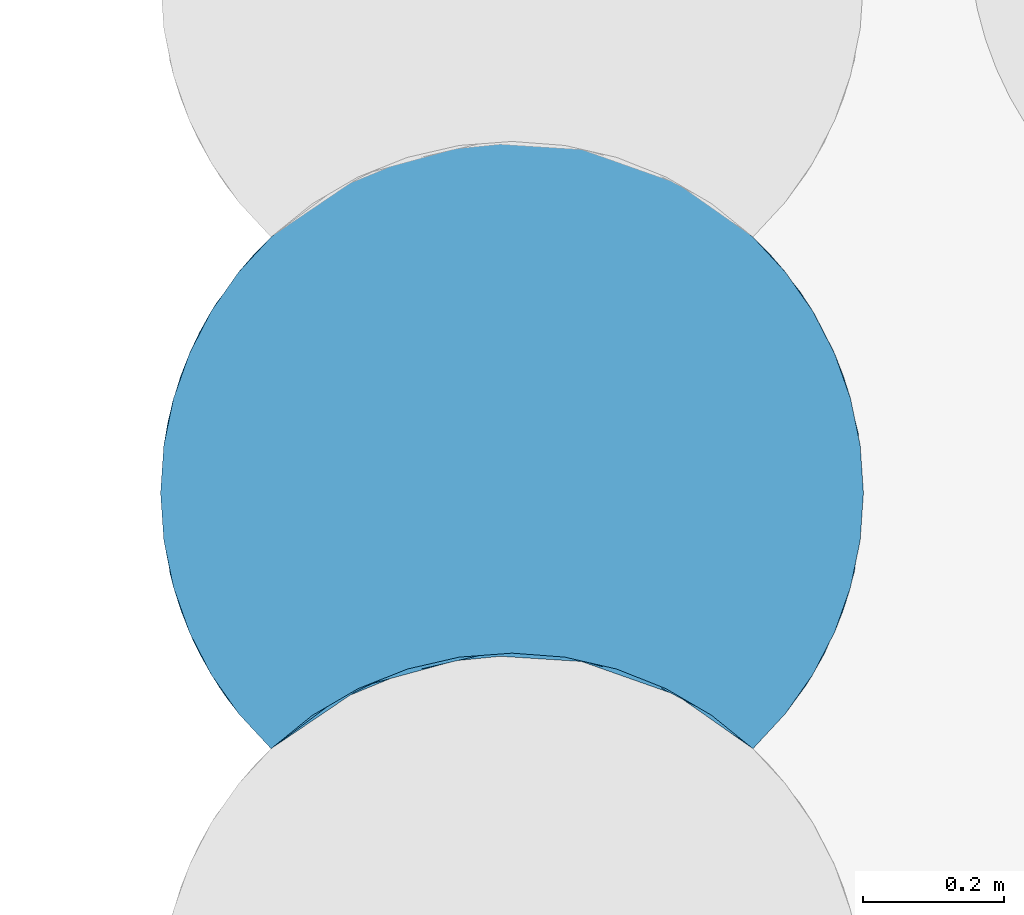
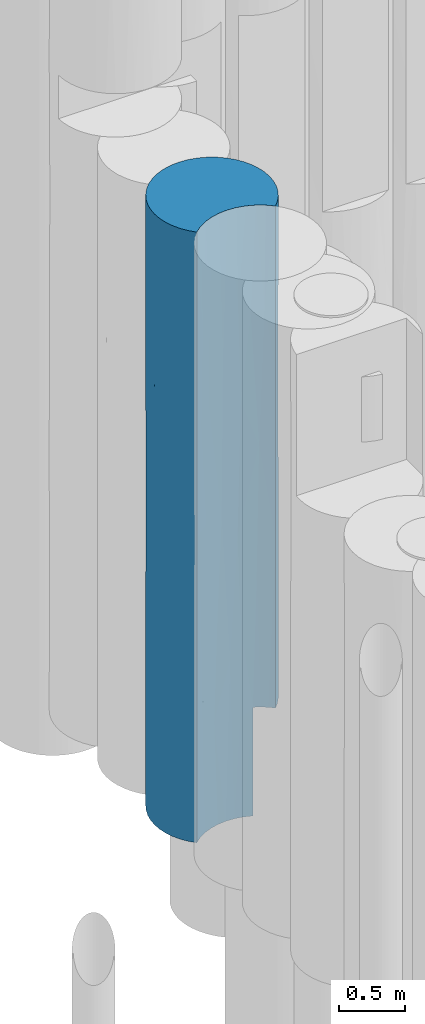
# One storey, part 57 of 104: 1 pile.
"""IFC2X3 building model written with IfcOpenShell, lengths in millimetres."""

from ifc_helpers import new_model, entity, si_unit, converted_unit, derived_unit, direction, frame, origin, place, context, subcontext, project, spatial, faceted_brep, source, transform, mapped, material, element, save


model = new_model("IFC2X3")

# Units and contexts
model_context = context("Model", 3, precision=0.01, world=origin(), true_north=direction((6.12303176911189e-17, 1.0)))
body_context = subcontext(model_context, "Body", "Model", "MODEL_VIEW")
ifc_project = project(units=[si_unit("LENGTHUNIT", "METRE", prefix="MILLI"), si_unit("AREAUNIT", "SQUARE_METRE", prefix="MILLI"), si_unit("VOLUMEUNIT", "CUBIC_METRE"), converted_unit("PLANEANGLEUNIT", "DEGREE", entity("IfcRatioMeasure", 0.0174532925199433), si_unit("PLANEANGLEUNIT", "RADIAN"), dimensions=[0, 0, 0, 0, 0, 0, 0]), si_unit("MASSUNIT", "GRAM", prefix="KILO"), derived_unit("MASSDENSITYUNIT", [(si_unit("MASSUNIT", "GRAM", prefix="KILO"), 1), (si_unit("LENGTHUNIT", "METRE"), -3)]), derived_unit("MOMENTOFINERTIAUNIT", [(si_unit("LENGTHUNIT", "METRE"), 4)]), si_unit("TIMEUNIT", "SECOND"), si_unit("FREQUENCYUNIT", "HERTZ"), si_unit("THERMODYNAMICTEMPERATUREUNIT", "DEGREE_CELSIUS"), derived_unit("THERMALTRANSMITTANCEUNIT", [(si_unit("MASSUNIT", "GRAM", prefix="KILO"), 1), (si_unit("THERMODYNAMICTEMPERATUREUNIT", "KELVIN"), -1), (si_unit("TIMEUNIT", "SECOND"), -3)]), derived_unit("VOLUMETRICFLOWRATEUNIT", [(si_unit("LENGTHUNIT", "METRE"), 3), (si_unit("TIMEUNIT", "SECOND"), -1)]), si_unit("ELECTRICCURRENTUNIT", "AMPERE"), si_unit("ELECTRICVOLTAGEUNIT", "VOLT"), si_unit("POWERUNIT", "WATT"), si_unit("FORCEUNIT", "NEWTON", prefix="KILO"), si_unit("ILLUMINANCEUNIT", "LUX"), si_unit("LUMINOUSFLUXUNIT", "LUMEN"), si_unit("LUMINOUSINTENSITYUNIT", "CANDELA"), derived_unit("USERDEFINED", [(si_unit("MASSUNIT", "GRAM", prefix="KILO"), -1), (si_unit("LENGTHUNIT", "METRE"), -2), (si_unit("TIMEUNIT", "SECOND"), 3), (si_unit("LUMINOUSFLUXUNIT", "LUMEN"), 1)]), derived_unit("LINEARVELOCITYUNIT", [(si_unit("LENGTHUNIT", "METRE"), 1), (si_unit("TIMEUNIT", "SECOND"), -1)]), si_unit("PRESSUREUNIT", "PASCAL"), derived_unit("USERDEFINED", [(si_unit("LENGTHUNIT", "METRE"), -2), (si_unit("MASSUNIT", "GRAM", prefix="KILO"), 1), (si_unit("TIMEUNIT", "SECOND"), -2)]), derived_unit("LINEARFORCEUNIT", [(si_unit("MASSUNIT", "GRAM", prefix="KILO"), 1), (si_unit("LENGTHUNIT", "METRE"), 1), (si_unit("TIMEUNIT", "SECOND"), -2), (si_unit("LENGTHUNIT", "METRE"), -1)]), derived_unit("PLANARFORCEUNIT", [(si_unit("MASSUNIT", "GRAM", prefix="KILO"), 1), (si_unit("LENGTHUNIT", "METRE"), 1), (si_unit("TIMEUNIT", "SECOND"), -2), (si_unit("LENGTHUNIT", "METRE"), -2)])], contexts=[model_context])

# Site, building, storey
site_placement = place(None, origin())
site = spatial("IfcSite", under=ifc_project, at=site_placement, Name="Theater aan de Parade", CompositionType="ELEMENT")
building_placement = place(site_placement, origin())
building = spatial("IfcBuilding", under=site, at=building_placement, Name="Theater aan de Parade", CompositionType="ELEMENT")
storey_placement = place(building_placement, frame((0.0, 0.0, -5520.0)))
storey = spatial("IfcBuildingStorey", under=building, at=storey_placement, Name="-2 kelder", CompositionType="ELEMENT", Elevation=-5520.0)

# Pile
ifc_material = material(Name="00_PBT_MAT_grout")
shared_shape = source(origin(), body_context, "Body", "Brep", [
    faceted_brep([(488.5644114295, 137.425440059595, 0.0), (416.054292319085, 130.223672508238, 0.0), (345.360214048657, 112.559067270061, 0.0), (277.98364709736, 84.8064540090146, 0.0), (215.356100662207, 47.5551930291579, 0.0), (158.806707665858, 1.59527223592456, 0.0), (112.64402578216, 51.4027709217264, 0.0), (73.6675450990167, 106.987731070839, 0.0), (42.5806423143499, 167.338949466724, 0.0), (19.9546103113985, 231.348213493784, 0.0), (6.20826767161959, 297.833072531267, 0.0), (1.5952722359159, 365.59527223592, 0.0), (6.20801873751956, 433.355652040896, 0.0), (19.9560911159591, 499.84764357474, 0.0), (42.5853143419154, 563.862411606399, 0.0), (73.6765052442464, 624.21763951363, 0.0), (112.656322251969, 679.802995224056, 0.0), (158.803286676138, 729.584913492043, 0.0), (215.352244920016, 775.552500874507, 0.0), (277.976547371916, 812.802903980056, 0.0), (345.350318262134, 840.555812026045, 0.0), (416.042931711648, 858.221699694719, 0.0), (488.55325423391, 865.425149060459, 0.0), (561.341488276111, 862.012827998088, 0.0), (632.861071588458, 848.056970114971, 0.0), (701.595316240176, 823.852822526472, 0.0), (701.595316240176, 95.8528225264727, 0.0), (632.867156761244, 120.055314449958, 0.0), (561.35061532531, 134.011729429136, 0.0), (928.938724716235, 625.167176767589, 2410.58574511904), (890.532271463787, 679.805409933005, 1000.0), (868.304056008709, 705.484471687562, 2205.34871043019), (597.355853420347, 856.339514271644, 847.330239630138), (803.505306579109, 764.155595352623, 2013.71666275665), (844.38383680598, 729.595272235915, 1000.0), (800.505678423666, 766.410153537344, 1000.0), (929.515196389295, 624.215724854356, 1000.0), (685.996518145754, 830.349164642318, 4066.13154582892), (650.395275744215, 842.940596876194, 5620.0), (720.545942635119, 815.106789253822, 5620.0), (973.010523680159, 532.231584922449, 2471.41935538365), (983.237088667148, 499.838188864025, 1000.0), (960.608068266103, 563.85584088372, 1000.0), (317.194025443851, 830.349164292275, 4659.6164193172), (282.644601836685, 815.106789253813, 5620.0), (352.795268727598, 842.940596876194, 5620.0), (80.5921486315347, 635.329159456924, 2115.29296881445), (30.1828483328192, 532.239583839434, 1936.10278614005), (44.1578118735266, 567.463966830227, 2919.61019938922), (777.063913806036, 782.868596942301, 2785.01510239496), (727.528044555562, 811.638299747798, 1950.76158669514), (525.009615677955, 865.046739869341, 1517.11154218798), (380.37438335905, 850.67825080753, 1124.58498632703), (426.30127336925, 859.893576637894, 2138.87040203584), (701.595316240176, 823.852822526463, 1000.0), (311.157198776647, 827.908304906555, 2087.85019600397), (629.760183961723, 848.889960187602, 1705.74148790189), (1.59527223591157, 365.59527223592, 1561.54585866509), (17.9787582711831, 492.540407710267, 1004.43543173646), (57.1053069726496, 594.568350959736, 1043.55298003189), (752.718177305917, 797.957720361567, 1000.0), (580.551658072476, 859.32180498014, 4517.26581996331), (134.878781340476, 705.476156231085, 4258.15024904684), (158.80670766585, 729.595272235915, 5620.0), (233.407602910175, 787.58505175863, 4765.72577113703), (112.644025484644, 679.787773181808, 5620.0), (57.0986427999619, 594.555413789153, 4676.4192100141), (73.6675450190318, 624.20281326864, 5620.0), (996.982276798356, 433.357471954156, 5620.0), (1001.59527223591, 365.59527223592, 5620.0), (1001.59527223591, 365.59527223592, 4123.07545828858), (910.968403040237, 652.673031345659, 3309.98592411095), (868.311762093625, 705.476157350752, 4401.75877318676), (932.088889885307, 619.908553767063, 4615.56453284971), (996.984106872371, 433.344091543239, 1000.0), (890.546518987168, 679.787773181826, 5620.0), (1001.59527223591, 365.59527223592, 1000.0), (1001.59527223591, 365.59527223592, 2561.53772914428), (983.235934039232, 499.842331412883, 5620.0), (973.010577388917, 532.231432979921, 4148.5640726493), (960.609902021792, 563.851595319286, 5620.0), (840.043323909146, 733.63455861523, 3467.7587551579), (929.522999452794, 624.202813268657, 5620.0), (783.654941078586, 778.441906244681, 4266.82501326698), (844.383836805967, 729.595272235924, 5620.0), (206.494455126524, 769.223204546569, 2142.01371311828), (260.865593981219, 803.829481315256, 2931.2231110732), (994.157877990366, 451.51430046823, 3345.41582746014), (959.276953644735, 566.909649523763, 3309.99201507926), (785.707284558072, 777.032223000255, 5620.0), (30.1799660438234, 532.231430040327, 3903.08946803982), (11.6328884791, 465.279084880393, 2715.80418864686), (42.5806424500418, 563.851595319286, 5620.0), (245.984924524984, 795.320009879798, 1124.58430920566), (665.259677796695, 838.050521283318, 2926.77315730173), (134.8891355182, 705.487327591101, 1387.65378984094), (1.5952722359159, 365.59527223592, 5620.0), (6.20826767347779, 433.357471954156, 5620.0), (11.9517035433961, 466.833484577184, 4676.41592092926), (19.9546104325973, 499.842331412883, 5620.0), (249.344535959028, 797.300688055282, 3910.63302419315), (362.478182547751, 845.851907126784, 3555.72400892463), (453.415492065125, 863.26856746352, 3413.45369916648), (1.5952722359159, 365.59527223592, 3123.07334771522), (1.5952722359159, 365.59527223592, 4058.45414133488), (501.595272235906, 865.595272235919, 5620.0), (576.853265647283, 859.89905982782, 5620.0), (463.858643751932, 864.169185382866, 4271.86307752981), (426.337278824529, 859.899059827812, 5620.0), (217.48325991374, 777.032223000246, 5620.0), (539.331899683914, 864.169185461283, 3065.18090742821), (77.4295681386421, 630.328072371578, 3732.46968945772), (134.889135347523, 705.487327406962, 2809.99443914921), (1.5952722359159, 365.59527223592, 2496.9234292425), (17.9751890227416, 238.663735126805, 4615.57531545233), (6.20826767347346, 297.833072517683, 5620.0), (112.644025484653, 51.4027712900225, 5620.0), (57.0986428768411, 136.635130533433, 4576.47739468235), (158.806707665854, 1.5952722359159, 4058.4873131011), (98.3088047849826, 70.027978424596, 2577.81473400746), (158.806707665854, 1.59527223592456, 1561.53926176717), (158.806707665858, 1.59527223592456, 2810.0), (158.806707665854, 1.5952722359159, 3123.07852353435), (57.0986428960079, 136.635130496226, 1881.64007998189), (30.1799660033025, 198.959114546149, 1018.49061105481), (92.2113005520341, 78.5329728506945, 1018.48909543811), (30.1799661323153, 198.959114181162, 3683.9340559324), (14.6406638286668, 252.126292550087, 2044.14052383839), (47.1553927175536, 157.066147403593, 2818.58246194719), (15.7920895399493, 247.293675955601, 2928.93200092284), (158.806707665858, 1.59527223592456, 4215.0), (158.806707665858, 1.5952722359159, 5620.0), (19.9546104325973, 231.348213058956, 5620.0), (42.5806424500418, 167.338949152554, 5620.0), (73.6675450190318, 106.9877312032, 5620.0), (85.0570456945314, 89.0163398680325, 3556.80056728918), (158.806707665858, 1.59527223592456, 1405.0), (576.847851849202, 131.899884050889, 5620.0), (650.386060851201, 114.943469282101, 5620.0), (720.534584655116, 87.1123213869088, 5620.0), (785.695330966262, 49.040477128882, 5620.0), (844.383836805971, 1.5952722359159, 5620.0), (890.539459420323, 51.3940321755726, 5620.0), (929.517907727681, 106.979305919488, 5620.0), (960.607207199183, 167.332710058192, 5620.0), (983.235035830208, 231.344990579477, 5620.0), (996.982362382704, 297.833698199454, 5620.0), (217.495213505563, 49.040477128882, 5620.0), (282.655959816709, 87.1123213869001, 5620.0), (352.804483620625, 114.943469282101, 5620.0), (426.342692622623, 131.899884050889, 5620.0), (501.595272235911, 137.59527223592, 5620.0), (525.019781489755, 137.046263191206, 1462.58901742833), (587.814477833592, 130.105422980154, 2591.06869725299), (452.177983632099, 135.147210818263, 2805.10545022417), (743.769038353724, 75.0331158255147, 3410.88829021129), (727.516756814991, 83.6440171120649, 2196.98873537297), (844.383836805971, 1.5952722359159, 2561.53808472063), (800.501613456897, 38.4131849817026, 1000.0), (844.383836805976, 1.5952722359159, 1000.0), (685.986160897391, 102.353273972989, 4626.91651063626), (591.526714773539, 129.441117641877, 4721.05919047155), (605.426497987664, 126.695544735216, 898.401691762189), (245.990356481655, 67.323240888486, 950.280209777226), (380.385030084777, 122.680911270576, 950.279121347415), (701.595316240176, 95.8528225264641, 1000.0), (333.007787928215, 108.316272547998, 4785.14956697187), (317.204382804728, 102.353273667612, 3942.72019594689), (463.861374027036, 136.16939202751, 4242.78133127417), (752.696294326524, 69.9704295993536, 1000.0), (249.35626130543, 69.3075391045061, 4673.64434517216), (228.762208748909, 56.5966081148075, 3767.4163807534), (777.770487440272, 54.4012828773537, 4669.84707483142), (844.383836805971, 1.5952722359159, 4123.07616944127), (613.937328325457, 124.811099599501, 3836.42558704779), (412.145906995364, 129.529018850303, 1890.87029092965), (222.130764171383, 52.2030250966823, 2117.10639037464), (311.165684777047, 99.91180040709, 1702.74186780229), (291.01704495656, 91.0892746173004, 2828.93136886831), (612.319663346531, 125.181274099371, 1759.0776843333), (946.092882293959, 136.637034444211, 2936.01182014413), (925.562730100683, 100.54509835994, 2004.37665064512), (973.008888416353, 198.954333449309, 4223.57134166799), (988.918248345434, 253.718925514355, 3074.8464196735), (973.014264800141, 198.969543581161, 2043.51622486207), (960.612854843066, 167.345785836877, 1000.0), (983.239874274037, 231.362350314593, 1000.0), (929.521362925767, 106.985023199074, 1000.0), (919.609014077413, 91.2514885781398, 4493.2279209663), (996.985169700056, 297.854224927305, 1000.0), (890.538738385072, 51.3931396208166, 1000.0)], [[[0, 1, 2, 3, 4, 5, 6, 7, 8, 9, 10, 11, 12, 13, 14, 15, 16, 17, 18, 19, 20, 21, 22, 23, 24, 25, 26, 27, 28]], [[29, 30, 31]], [[23, 32, 24]], [[33, 34, 35]], [[36, 30, 29]], [[37, 38, 39]], [[40, 41, 42]], [[43, 44, 45]], [[46, 47, 48]], [[49, 33, 50]], [[51, 52, 53]], [[54, 25, 24]], [[22, 52, 51]], [[53, 52, 55]], [[51, 56, 32]], [[31, 33, 49]], [[57, 58, 12]], [[47, 59, 58]], [[50, 33, 60]], [[37, 61, 38]], [[62, 63, 64]], [[65, 66, 67]], [[30, 34, 31]], [[68, 69, 70]], [[71, 72, 73]], [[40, 74, 41]], [[75, 73, 72]], [[76, 74, 77]], [[78, 79, 80]], [[70, 79, 68]], [[20, 52, 21]], [[50, 60, 54]], [[81, 72, 71]], [[80, 79, 73]], [[75, 82, 73]], [[36, 29, 42]], [[63, 62, 65]], [[83, 81, 49]], [[75, 72, 84]], [[68, 79, 78]], [[85, 86, 55]], [[83, 84, 72]], [[87, 40, 88]], [[39, 89, 83]], [[90, 48, 91]], [[22, 51, 32]], [[92, 67, 66]], [[18, 93, 19]], [[49, 94, 37]], [[56, 50, 54]], [[95, 93, 17]], [[20, 93, 52]], [[17, 93, 18]], [[16, 59, 95]], [[19, 93, 20]], [[16, 95, 17]], [[46, 59, 47]], [[57, 12, 11]], [[72, 81, 83]], [[96, 97, 98]], [[98, 97, 99]], [[59, 15, 14]], [[81, 31, 49]], [[100, 64, 43]], [[58, 59, 14]], [[14, 13, 58]], [[53, 101, 102]], [[31, 71, 29]], [[103, 104, 90]], [[61, 105, 106]], [[107, 43, 108]], [[74, 40, 77]], [[40, 29, 88]], [[105, 107, 108]], [[101, 100, 43]], [[22, 21, 52]], [[93, 85, 55]], [[93, 55, 52]], [[16, 15, 59]], [[64, 44, 43]], [[109, 64, 63]], [[110, 107, 61]], [[94, 49, 50]], [[48, 90, 111]], [[90, 98, 66]], [[66, 98, 99]], [[66, 111, 90]], [[66, 65, 62]], [[100, 112, 62]], [[66, 99, 92]], [[94, 56, 110]], [[91, 57, 113, 103]], [[107, 105, 61]], [[85, 95, 112]], [[79, 87, 88]], [[111, 66, 62]], [[90, 104, 98]], [[96, 98, 104]], [[108, 43, 45]], [[101, 43, 107]], [[94, 50, 56]], [[110, 37, 94]], [[102, 101, 107]], [[86, 101, 55]], [[62, 112, 111]], [[112, 46, 48]], [[112, 48, 111]], [[91, 48, 47]], [[112, 95, 46]], [[59, 46, 95]], [[32, 54, 24]], [[56, 51, 110]], [[32, 23, 22]], [[54, 32, 56]], [[57, 91, 47]], [[90, 91, 103]], [[95, 85, 93]], [[86, 112, 100]], [[101, 53, 55]], [[110, 51, 53]], [[12, 58, 13]], [[57, 47, 58]], [[112, 86, 85]], [[101, 86, 100]], [[62, 64, 100]], [[44, 64, 109]], [[34, 33, 31]], [[60, 33, 35]], [[31, 81, 71]], [[83, 49, 37]], [[39, 83, 37]], [[84, 83, 89]], [[73, 88, 71]], [[79, 70, 87]], [[70, 77, 87]], [[40, 87, 77]], [[80, 73, 82]], [[73, 79, 88]], [[38, 61, 106]], [[110, 61, 37]], [[88, 29, 71]], [[29, 40, 42]], [[107, 110, 102]], [[53, 102, 110]], [[104, 114, 115]], [[116, 117, 118]], [[119, 120, 121, 122]], [[123, 124, 125]], [[125, 8, 7]], [[10, 124, 57]], [[126, 117, 114]], [[124, 127, 57]], [[57, 11, 10]], [[115, 96, 104]], [[127, 128, 129]], [[6, 125, 7]], [[127, 124, 123]], [[116, 118, 130, 131]], [[10, 9, 124]], [[129, 104, 103, 113]], [[132, 114, 133]], [[133, 117, 134]], [[135, 119, 122]], [[117, 133, 114]], [[135, 118, 117]], [[125, 5, 136, 120]], [[116, 134, 117]], [[125, 124, 8]], [[135, 117, 126]], [[9, 8, 124]], [[5, 125, 6]], [[119, 125, 120]], [[127, 123, 128]], [[57, 127, 113]], [[119, 128, 123]], [[118, 135, 122]], [[115, 114, 132]], [[104, 126, 114]], [[128, 135, 126]], [[119, 123, 125]], [[135, 128, 119]], [[128, 126, 129]], [[104, 129, 126]], [[113, 127, 129]], [[137, 138, 139, 140, 141, 142, 143, 144, 145, 146, 69, 68, 78, 80, 82, 75, 84, 89, 39, 38, 106, 105, 108, 45, 44, 109, 63, 65, 67, 92, 99, 97, 96, 115, 132, 133, 134, 116, 131, 147, 148, 149, 150, 151]], [[152, 153, 154]], [[155, 153, 156]], [[157, 158, 159]], [[160, 138, 161]], [[28, 162, 152]], [[4, 163, 5]], [[152, 164, 0]], [[26, 165, 27]], [[166, 167, 168]], [[139, 138, 160]], [[165, 169, 156]], [[167, 170, 171]], [[2, 164, 3]], [[170, 130, 171]], [[141, 172, 173]], [[139, 160, 172]], [[155, 160, 174]], [[169, 158, 156]], [[174, 160, 161]], [[152, 175, 164]], [[164, 1, 0]], [[136, 163, 176]], [[1, 164, 2]], [[155, 172, 160]], [[131, 170, 147]], [[163, 164, 177]], [[149, 148, 166]], [[168, 167, 154]], [[121, 176, 178]], [[163, 4, 3]], [[140, 139, 172]], [[163, 3, 164]], [[137, 161, 138]], [[151, 150, 168]], [[178, 175, 154]], [[178, 171, 121]], [[166, 168, 150]], [[167, 166, 170]], [[165, 162, 27]], [[174, 154, 153]], [[154, 174, 168]], [[147, 170, 148]], [[161, 137, 151]], [[152, 0, 28]], [[177, 164, 175]], [[5, 163, 136]], [[130, 170, 131]], [[155, 157, 173]], [[157, 156, 158]], [[162, 179, 152]], [[155, 156, 157]], [[177, 175, 178]], [[154, 175, 152]], [[167, 171, 178]], [[171, 130, 118, 122, 121]], [[167, 178, 154]], [[176, 177, 178]], [[177, 176, 163]], [[176, 121, 120, 136]], [[161, 168, 174]], [[168, 161, 151]], [[174, 153, 155]], [[162, 165, 179]], [[170, 166, 148]], [[150, 149, 166]], [[27, 162, 28]], [[153, 152, 179]], [[179, 156, 153]], [[156, 179, 165]], [[140, 172, 141]], [[173, 172, 155]], [[180, 173, 157]], [[180, 157, 181]], [[182, 180, 183]], [[184, 181, 185]], [[184, 185, 186]], [[187, 185, 181]], [[183, 70, 182]], [[70, 69, 146]], [[142, 173, 188]], [[141, 173, 142]], [[184, 189, 77]], [[190, 181, 157]], [[183, 180, 184]], [[159, 190, 157]], [[189, 184, 186]], [[146, 145, 182]], [[181, 190, 187]], [[182, 188, 180]], [[189, 76, 77]], [[144, 188, 182]], [[143, 188, 144]], [[184, 180, 181]], [[146, 182, 70]], [[183, 184, 77]], [[70, 183, 77]], [[182, 145, 144]], [[142, 188, 143]], [[180, 188, 173]], [[60, 35, 34, 30, 36, 42, 41, 74, 76, 189, 186, 185, 187, 190, 159, 158, 169, 165, 54]], [[54, 165, 26, 25]]]),
])
pile_placement = place(storey_placement, frame((34252.2628578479, 42087.2179922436, -3840.0)))
element("IfcPile", 1, at=pile_placement, inside=storey, material=ifc_material, Name="17_PBT_SFO_grondkering_rond:Ø1000 (grondkering)", ObjectType="17_PBT_SFO_grondkering_rond:Ø1000 (grondkering)", PredefinedType="NOTDEFINED", context=body_context, shape_type="MappedRepresentation", body=[
    mapped(shared_shape, transform((0.0, 0.0, 0.0), scale=1.0)),
])

save(model, "model.ifc")
